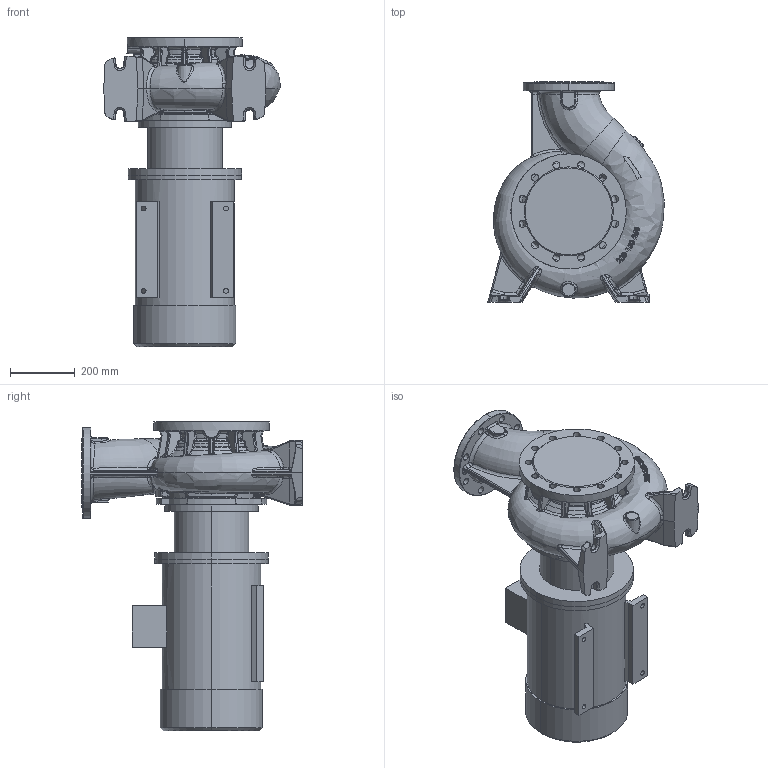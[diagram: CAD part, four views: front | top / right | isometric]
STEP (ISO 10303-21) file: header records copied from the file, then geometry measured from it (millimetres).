
FILE_DESCRIPTION (( 'STEP AP214' ), '1' );
FILE_NAME ('KRM 200-150-250-4-15.STEP', '2026-04-17T12:08:25', ( '' ), ( '' ), 'SwSTEP 2.0', 'SolidWorks 2016', '' );
FILE_SCHEMA (( 'AUTOMOTIVE_DESIGN' ));
Length unit declared in the file: millimetre
Products named in the file (1): KRM 200-150-250-4-15
Bounding box: 544.53 x 680 x 955.8 mm (x, y, z)
Volume: 93506356.9 mm3; surface area: 2722849 mm2
Topology: 8 solids, 8 shells, 1483 faces, 3639 edges, 2173 vertices
Faces by surface type: bspline 661, cylinder 291, plane 263, torus 147, cone 99, sphere 22
Entity records: 148888 total; most frequent: CARTESIAN_POINT 102634, ORIENTED_EDGE 7234, DIRECTION 4971, EDGE_CURVE 3617, VERTEX_POINT 2173, AXIS2_PLACEMENT_3D 2117, EDGE_LOOP 1554, UNCERTAINTY_MEASURE_WITH_UNIT 1493
